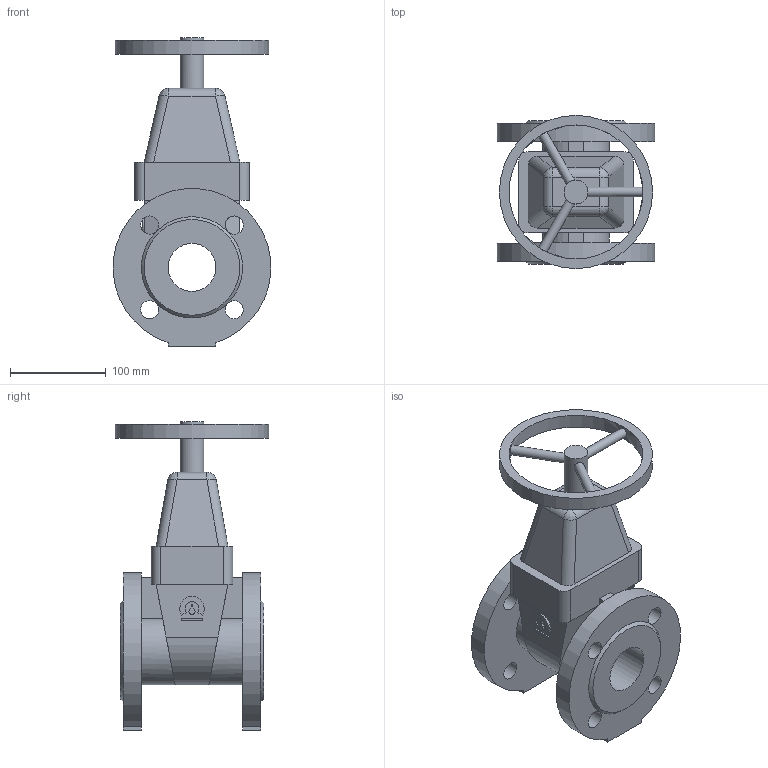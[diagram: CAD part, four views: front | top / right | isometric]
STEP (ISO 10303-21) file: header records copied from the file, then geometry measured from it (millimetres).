
FILE_DESCRIPTION(('STEP AP203'), '1');
FILE_NAME('Çàäâèæêà 47GV DN50 PN10_PN16_L150 ñ ìàõîâèêîì', '', ('UNSPECIFIED'), ('UNSPECIFIED'), 'ASCON STEP Converter 1.6', 'ASCON Math Kernel', '');
FILE_SCHEMA(('CONFIG_CONTROL_DESIGN'));
Length unit declared in the file: millimetre
Bounding box: 164.7 x 160 x 322.5 mm (x, y, z)
Volume: 2211415.1 mm3; surface area: 238361.2 mm2
Topology: 1 solids, 1 shells, 94 faces, 249 edges, 156 vertices
Faces by surface type: plane 49, cylinder 39, bspline 4, cone 2
Full cylindrical faces by diameter (mm): 10 x3, 19 x8, 25 x1, 50 x1, 140 x1, 160 x1
Entity records: 4504 total; most frequent: CARTESIAN_POINT 1517, DIRECTION 444, ORIENTED_EDGE 424, EDGE_CURVE 212, AXIS2_PLACEMENT_3D 159, VERTEX_POINT 148, EDGE_LOOP 146, LINE 126
